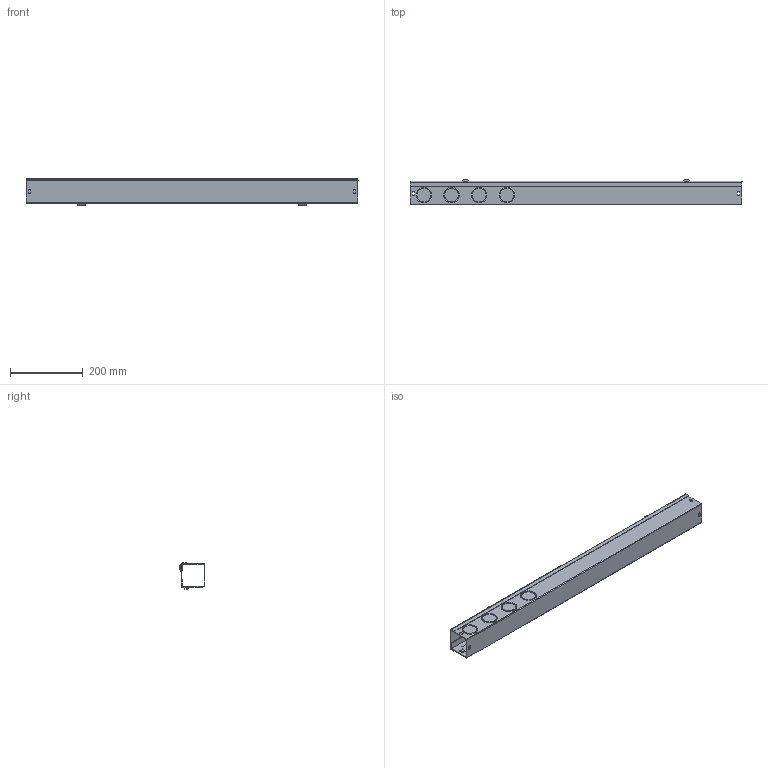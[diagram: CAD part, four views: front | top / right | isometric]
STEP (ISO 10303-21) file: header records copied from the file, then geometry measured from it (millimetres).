
FILE_DESCRIPTION((''),'1');
FILE_NAME('19','2001-04-18T',('jlue'),(''),'PRO/ENGINEER BY PARAMETRIC TECHNOLOGY CORPORATION, 9846','PRO/ENGINEER BY PARAMETRIC TECHNOLOGY CORPORATION, 9846','');
FILE_SCHEMA(('CONFIG_CONTROL_DESIGN'));
Length unit declared in the file: inch
Products named in the file (1): 19
Bounding box: 914.4 x 70.88 x 72.53 mm (x, y, z)
Surface area: 518460 mm2 (no closed solid volume)
Topology: 0 solids, 0 shells, 218 faces, 1105 edges, 1126 vertices
Faces by surface type: plane 118, cylinder 84, cone 8, bspline 8
Entity records: 5913 total; most frequent: DIRECTION 1175, COMPOSITE_CURVE_SEGMENT 1084, CARTESIAN_POINT 1021, TRIMMED_CURVE 561, AXIS2_PLACEMENT_3D 404, VECTOR 367, LINE 367, CURVE_BOUNDED_SURFACE 218
